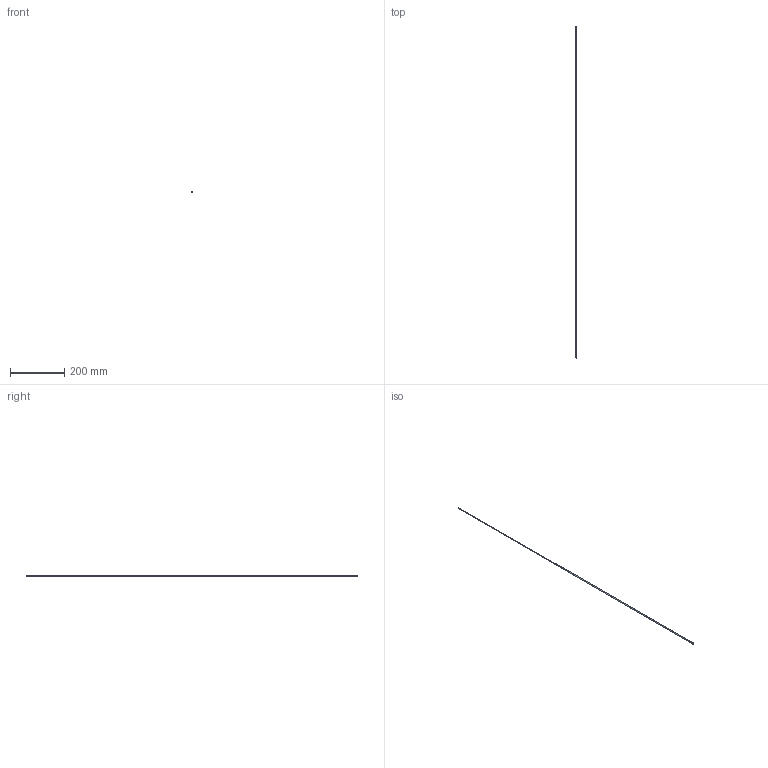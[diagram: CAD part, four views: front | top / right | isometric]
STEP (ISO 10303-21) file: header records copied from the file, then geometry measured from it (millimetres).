
FILE_DESCRIPTION(/* description */ (''),/* implementation_level */ '2;1');
FILE_NAME(/* name */ 'C:/Users/drich/Desktop/JHF125T-48 v1.step',/* time_stamp */ '2020-01-02T20:08:35-06:00',/* author */ (''),/* organization */ (''),/* preprocessor_version */ 'ST-DEVELOPER v18',/* originating_system */ 'Autodesk Translation Framework v8.12.0.6',/* authorisation */ '');
FILE_SCHEMA (('AUTOMOTIVE_DESIGN { 1 0 10303 214 3 1 1 }'));
Length unit declared in the file: inch
Products named in the file (1): JHF125T-48
Bounding box: 6.4 x 1219.2 x 6.4 mm (x, y, z)
Volume: 2457.9 mm3; surface area: 22872 mm2
Topology: 1 solids, 1 shells, 10 faces, 24 edges, 18 vertices
Faces by surface type: cylinder 4, plane 4, cone 1, torus 1
Full cylindrical faces by diameter (mm): 2.769 x1, 3.175 x1, 6.269 x1, 6.401 x1
Entity records: 354 total; most frequent: DIRECTION 65, CARTESIAN_POINT 53, ORIENTED_EDGE 48, AXIS2_PLACEMENT_3D 30, EDGE_CURVE 24, CIRCLE 19, VERTEX_POINT 18, EDGE_LOOP 14
